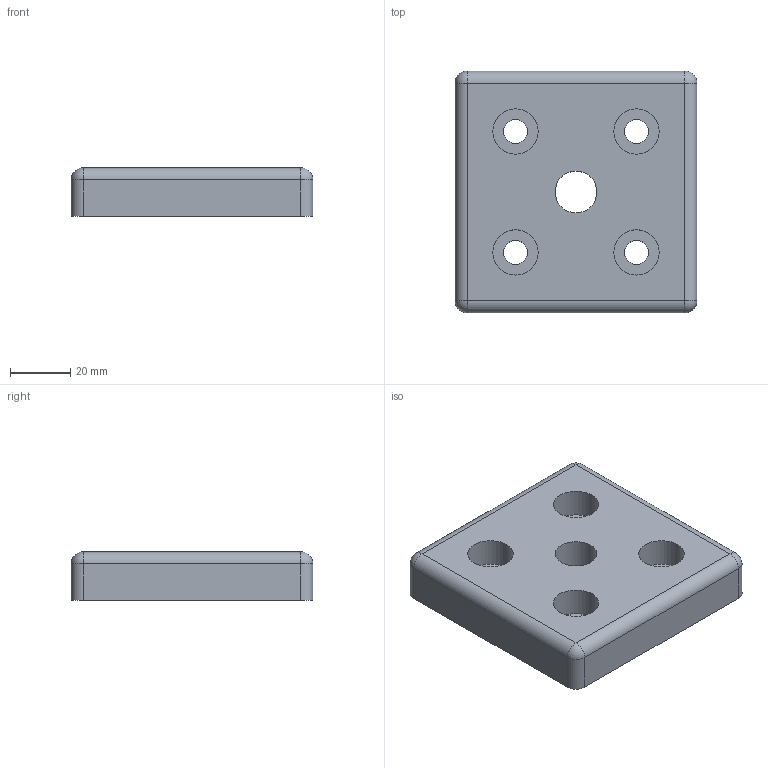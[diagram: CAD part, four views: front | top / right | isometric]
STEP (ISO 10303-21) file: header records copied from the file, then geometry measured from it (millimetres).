
FILE_DESCRIPTION(/* description */ ('STEP AP214'),/* implementation_level */ '2;1');
FILE_NAME(/* name */ 'Transport and Base Plate GN 80i-80808M16-A-ZS',/* time_stamp */ '2024-08-28T12:26:56+02:00',/* author */ ('License CC BY-ND 4.0'),/* organization */ ('CADENAS'),/* preprocessor_version */ 'ST-DEVELOPER v19.3',/* originating_system */ 'PARTsolutions',/* authorisation */ ' ');
FILE_SCHEMA (('AUTOMOTIVE_DESIGN {1 0 10303 214 3 1 1}'));
Length unit declared in the file: millimetre
Products named in the file (1): Transport and Base Plate GN 80i-80808M16-A-ZS
Bounding box: 80 x 80 x 16 mm (x, y, z)
Volume: 90697 mm3; surface area: 19674.7 mm2
Topology: 1 solids, 1 shells, 31 faces, 67 edges, 38 vertices
Faces by surface type: cylinder 17, plane 10, sphere 4
Full cylindrical faces by diameter (mm): 8 x4, 13.835 x1, 15 x4
Entity records: 820 total; most frequent: DIRECTION 152, CARTESIAN_POINT 124, ORIENTED_EDGE 108, AXIS2_PLACEMENT_3D 66, EDGE_CURVE 54, EDGE_LOOP 54, FACE_BOUND 54, VERTEX_POINT 38
